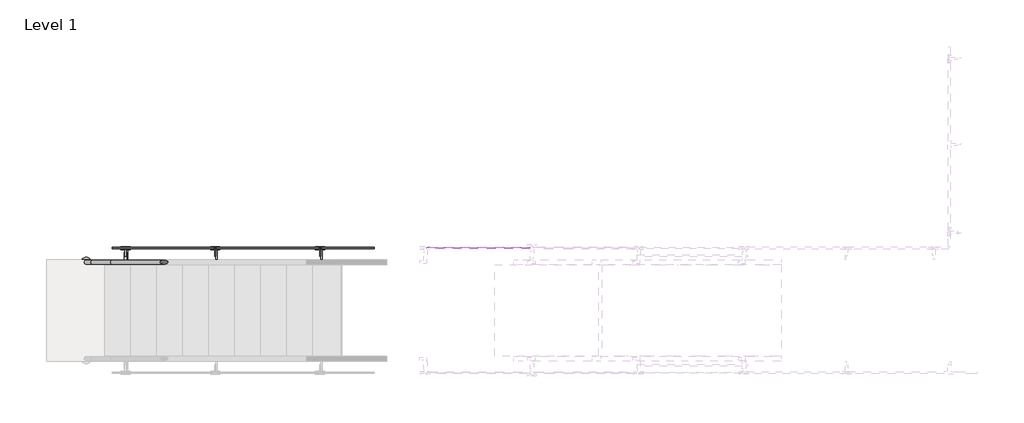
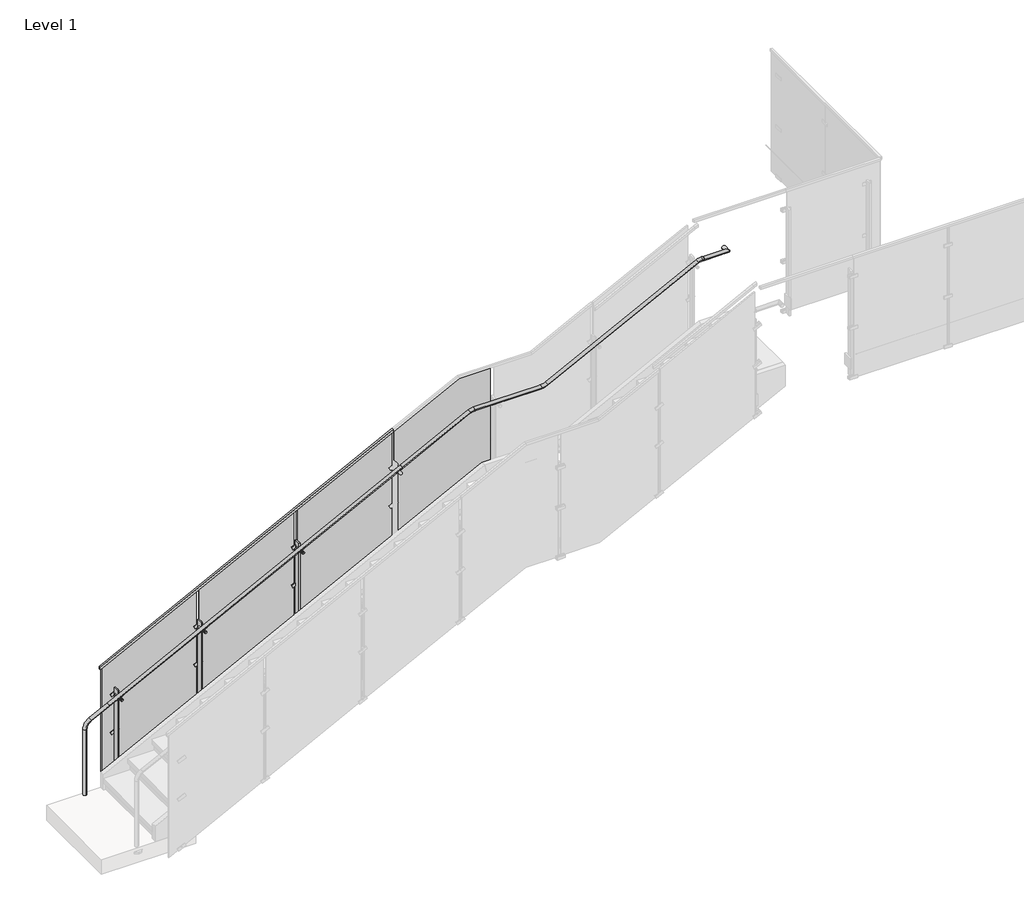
# One storey, part 34 of 37: 2 railings.
"""IFC4 building model written with IfcOpenShell, lengths in millimetres."""

import ifcopenshell
import ifcopenshell.guid

model = None  # the IFC model being written
_history = None  # IfcOwnerHistory: only IFC2X3 demands one
_inside = {}  # id of a spatial element -> (the spatial element, [elements in it])
_under = {}  # id of a project, library or spatial element -> (it, [spatial elements below it])
_declared = {}  # id of a project -> (the project, [libraries it declares])
_typed = {}  # id of a type object -> (the type object, [elements of that type])
_made_of = {}  # id of a material, layer set ... -> (it, [elements and type objects made of it])


def new_model(schema):
    """Start an empty IFC model of exactly this schema.

    Asked for "IFC4X3", IfcOpenShell would pick the latest addendum, in which some entities
    have other attributes; the version numbers below select the first issue.
    IFC2X3 requires an IfcOwnerHistory on every rooted entity: one is made here for all.
    """
    global model, _history
    if schema == "IFC4X3":
        model = ifcopenshell.file(schema_version=(4, 3, 0, 0))
    else:
        model = ifcopenshell.file(schema=schema)
    _inside.clear()
    _under.clear()
    _declared.clear()
    _typed.clear()
    _made_of.clear()
    _history = None
    if model.schema == "IFC2X3":
        org = make("IfcOrganization", Name="unknown")
        user = make(
            "IfcPersonAndOrganization",
            ThePerson=make("IfcPerson", FamilyName="unknown"),
            TheOrganization=org,
        )
        app = make(
            "IfcApplication",
            ApplicationDeveloper=org,
            Version="unknown",
            ApplicationFullName="unknown",
            ApplicationIdentifier="unknown",
        )
        _history = make(
            "IfcOwnerHistory",
            OwningUser=user,
            OwningApplication=app,
            ChangeAction="ADDED",
            CreationDate=0,
        )
    return model


def make(cls, **values):
    """One entity of the class cls with the attributes given. An attribute that is None is left unset."""
    return model.create_entity(
        cls, **{name: value for name, value in values.items() if value is not None}
    )


def rooted(cls, **values):
    """An entity with a GlobalId (a new one), such as an element, a storey or a relation."""
    return make(cls, GlobalId=ifcopenshell.guid.new(), OwnerHistory=_history, **values)


def si_unit(unit_type, name, prefix=None):
    """IfcSIUnit, for example si_unit("LENGTHUNIT", "METRE", prefix="MILLI")."""
    return make("IfcSIUnit", UnitType=unit_type, Prefix=prefix, Name=name)


def assignment(units):
    """IfcUnitAssignment: the units of a project."""
    return None if units is None else make("IfcUnitAssignment", Units=units)


def point(xyz):
    """IfcCartesianPoint."""
    return None if xyz is None else make("IfcCartesianPoint", Coordinates=xyz)


def direction(xyz):
    """IfcDirection."""
    return None if xyz is None else make("IfcDirection", DirectionRatios=xyz)


def frame(location, z_axis=None, x_axis=None):
    """IfcAxis2Placement3D, a coordinate frame: its origin and axes. An axis left out is left unset."""
    return make(
        "IfcAxis2Placement3D",
        Location=point(location),
        Axis=direction(z_axis),
        RefDirection=direction(x_axis),
    )


def frame_2d(location, x_axis=None):
    """IfcAxis2Placement2D, a coordinate frame in the plane: its origin and x axis."""
    return make(
        "IfcAxis2Placement2D", Location=point(location), RefDirection=direction(x_axis)
    )


def origin():
    """The frame at (0, 0, 0) with its axes left unset."""
    return frame((0.0, 0.0, 0.0))


def place(relative_to, where):
    """IfcLocalPlacement: puts the frame where relative to a parent placement (None: the world)."""
    return make(
        "IfcLocalPlacement", PlacementRelTo=relative_to, RelativePlacement=where
    )


def context(
    kind, dimensions, precision=None, world=None, true_north=None, identifier=None
):
    """IfcGeometricRepresentationContext, for example the 3D "Model" context."""
    return make(
        "IfcGeometricRepresentationContext",
        ContextIdentifier=identifier,
        ContextType=kind,
        CoordinateSpaceDimension=dimensions,
        Precision=precision,
        WorldCoordinateSystem=world,
        TrueNorth=true_north,
    )


def project(units=None, contexts=None):
    """IfcProject with its units and contexts."""
    return rooted(
        "IfcProject",
        Name="project",
        RepresentationContexts=contexts,
        UnitsInContext=assignment(units),
    )


def spatial(cls, under=None, at=None, **own):
    """A site, building, storey or space (cls), placed at a placement, below another one or the project."""
    s = rooted(cls, ObjectPlacement=at, **own)
    if under is not None:
        _under.setdefault(under.id(), (under, []))[1].append(s)
    return s


def polyline(points):
    """IfcPolyline through the points."""
    return make("IfcPolyline", Points=[point(p) for p in points])


def circle_curve(where, radius):
    """IfcCircle in the frame where."""
    return make("IfcCircle", Position=where, Radius=radius)


def ellipse_curve(where, semi_axis1, semi_axis2):
    """IfcEllipse in the frame where."""
    return make(
        "IfcEllipse", Position=where, SemiAxis1=semi_axis1, SemiAxis2=semi_axis2
    )


def trimmed(basis, trim1, trim2, sense, master):
    """IfcTrimmedCurve: the piece of a basis curve between two trims."""
    return make(
        "IfcTrimmedCurve",
        BasisCurve=basis,
        Trim1=trim1,
        Trim2=trim2,
        SenseAgreement=sense,
        MasterRepresentation=master,
    )


def segment(curve, same_sense, transition):
    """IfcCompositeCurveSegment."""
    return make(
        "IfcCompositeCurveSegment",
        Transition=transition,
        SameSense=same_sense,
        ParentCurve=curve,
    )


def composite_curve(segments, self_intersect=None):
    """IfcCompositeCurve: segments joined end to end."""
    return make("IfcCompositeCurve", Segments=segments, SelfIntersect=self_intersect)


def outline(outer, holes=None, kind="AREA"):
    """IfcArbitraryClosedProfileDef: a profile drawn as a closed curve; with holes, ...WithVoids."""
    if holes is None:
        return make("IfcArbitraryClosedProfileDef", ProfileType=kind, OuterCurve=outer)
    return make(
        "IfcArbitraryProfileDefWithVoids",
        ProfileType=kind,
        OuterCurve=outer,
        InnerCurves=holes,
    )


def extrude(swept, where, along, depth):
    """IfcExtrudedAreaSolid: the profile swept, set in the frame where, extruded along a direction by depth."""
    return make(
        "IfcExtrudedAreaSolid",
        SweptArea=swept,
        Position=where,
        ExtrudedDirection=direction(along),
        Depth=depth,
    )


def faces_of(points, faces, orient=None, outer=None):
    """IfcFace entities. A face is a list of loops; a loop is a list of indices into points, from 0.

    orient and outer hold one flag for each loop. By default every Orientation is true, the
    first loop of a face is its IfcFaceOuterBound and the others are IfcFaceBound.
    """
    made = []
    for i, loops in enumerate(faces):
        bounds = []
        for j, loop in enumerate(loops):
            is_outer = j == 0 if outer is None else outer[i][j]
            bounds.append(
                make(
                    "IfcFaceOuterBound" if is_outer else "IfcFaceBound",
                    Bound=make("IfcPolyLoop", Polygon=[points[k] for k in loop]),
                    Orientation=True if orient is None else orient[i][j],
                )
            )
        made.append(make("IfcFace", Bounds=bounds))
    return made


def faceted_brep(points, faces, orient=None, outer=None, voids=None):
    """IfcFacetedBrep: a solid bounded by flat faces; with voids (closed shells), ...WithVoids."""
    shared = [point(p) for p in points]
    hull = make("IfcClosedShell", CfsFaces=faces_of(shared, faces, orient, outer))
    if voids is None:
        return make("IfcFacetedBrep", Outer=hull)
    return make(
        "IfcFacetedBrepWithVoids",
        Outer=hull,
        Voids=[
            make(cls, CfsFaces=faces_of(shared, fs, o, b)) for cls, fs, o, b in voids
        ],
    )


def shape(context_of_items, identifier, shape_type, items):
    """IfcShapeRepresentation: the items that make up one representation, for example the "Body"."""
    return make(
        "IfcShapeRepresentation",
        ContextOfItems=context_of_items,
        RepresentationIdentifier=identifier,
        RepresentationType=shape_type,
        Items=items,
    )


def source(mapping_origin, context_of_items, identifier, shape_type, items):
    """IfcRepresentationMap: a shape defined once, which mapped items show again and again."""
    return make(
        "IfcRepresentationMap",
        MappingOrigin=mapping_origin,
        MappedRepresentation=shape(context_of_items, identifier, shape_type, items),
    )


def transform(
    local_origin,
    x_axis=None,
    y_axis=None,
    z_axis=None,
    scale=None,
    scale2=None,
    scale3=None,
    uniform=True,
):
    """IfcCartesianTransformationOperator3D, or its non-uniform kind. x_axis, y_axis, z_axis: its Axis1, 2, 3."""
    if uniform:
        return make(
            "IfcCartesianTransformationOperator3D",
            Axis1=direction(x_axis),
            Axis2=direction(y_axis),
            LocalOrigin=point(local_origin),
            Scale=scale,
            Axis3=direction(z_axis),
        )
    return make(
        "IfcCartesianTransformationOperator3DnonUniform",
        Axis1=direction(x_axis),
        Axis2=direction(y_axis),
        LocalOrigin=point(local_origin),
        Scale=scale,
        Axis3=direction(z_axis),
        Scale2=scale2,
        Scale3=scale3,
    )


def mapped(mapping_source, mapping_target):
    """IfcMappedItem: shows the shape of a source again, moved by a transform."""
    return make(
        "IfcMappedItem", MappingSource=mapping_source, MappingTarget=mapping_target
    )


def made_of(thing, what):
    """Note that an element or type object is made of a material, layer set ...; save() writes the relation."""
    if what is not None:
        _made_of.setdefault(what.id(), (what, []))[1].append(thing)
    return thing


def element(
    cls,
    number,
    at=None,
    inside=None,
    cuts=None,
    type_object=None,
    material=None,
    context=None,
    identifier="Body",
    shape_type=None,
    held_by="IfcProductDefinitionShape",
    body=None,
    shapes=None,
    **own,
):
    """One element of the class cls, such as IfcWall. Its Tag is "e" and its number.

    at: its placement. inside: the storey or other place that contains it. cuts: it is an
    opening in that element (IfcRelVoidsElement). A single representation is given by context,
    identifier, shape_type and body (its items); several are given by shapes. held_by: the class
    of the entity that holds the representations. save() writes the other relations.
    """
    e = rooted(cls, Tag="e%d" % number, ObjectPlacement=at, **own)
    if body is not None:
        shapes = [shape(context, identifier, shape_type, body)]
    if shapes is not None:
        e.Representation = make(held_by, Representations=shapes)
    if inside is not None:
        _inside.setdefault(inside.id(), (inside, []))[1].append(e)
    if cuts is not None:
        rooted(
            "IfcRelVoidsElement", RelatingBuildingElement=cuts, RelatedOpeningElement=e
        )
    if type_object is not None:
        _typed.setdefault(type_object.id(), (type_object, []))[1].append(e)
    return made_of(e, material)


def aggregate(whole, parts):
    """IfcRelAggregates: a whole, such as a stair, and the parts it consists of."""
    return rooted("IfcRelAggregates", RelatingObject=whole, RelatedObjects=parts)


def save(model, path):
    """Write the relations noted so far, then the file.

    IfcRelAggregates (storeys below a building ...), IfcRelContainedInSpatialStructure (elements
    in a storey), IfcRelDefinesByType, IfcRelAssociatesMaterial and IfcRelDeclares: one each for
    every whole, place, type object, material and project.
    """
    for whole, parts in _under.values():
        aggregate(whole, parts)
    for where, things in _inside.values():
        rooted(
            "IfcRelContainedInSpatialStructure",
            RelatedElements=things,
            RelatingStructure=where,
        )
    for kind, things in _typed.values():
        rooted("IfcRelDefinesByType", RelatedObjects=things, RelatingType=kind)
    for what, things in _made_of.values():
        rooted("IfcRelAssociatesMaterial", RelatedObjects=things, RelatingMaterial=what)
    for by, libraries in _declared.values():
        rooted("IfcRelDeclares", RelatingContext=by, RelatedDefinitions=libraries)
    model.write(path)


def plane_surface(at):
    """IfcPlane: the flat surface through the origin of the frame at, square to its z axis."""
    return make("IfcPlane", Position=at)


def cylinder_surface(at, radius):
    """IfcCylindricalSurface: all points at the distance radius from the z axis of the frame at."""
    return make("IfcCylindricalSurface", Position=at, Radius=radius)


def revolved_surface(curve, axis_point, axis_direction):
    """IfcSurfaceOfRevolution: the curve turned about the line through axis_point along axis_direction."""
    return make(
        "IfcSurfaceOfRevolution",
        SweptCurve=make("IfcArbitraryOpenProfileDef", ProfileType="CURVE", Curve=curve),
        AxisPosition=make("IfcAxis1Placement", Location=point(axis_point), Axis=direction(axis_direction)),
    )


def advanced_brep(points, edges, surfaces, faces):
    """IfcAdvancedBrep: a solid bounded by faces that lie on surfaces and meet in shared edges.

    An edge is (start, end): straight between two places in points (the first is 0);
    or (start, end, curve); or (start, end, curve, False) where it runs against its curve.
    A face is (place in surfaces, loops), or (place, loops, False) where it looks against
    its surface's normal. A loop lists edges by number (the first is 1), with a minus sign
    where the edge is run from its end to its start. The first loop is the outer one.
    """
    corners = [point(p) for p in points]
    vertices = [make("IfcVertexPoint", VertexGeometry=c) for c in corners]
    made = []
    for start, end, *more in edges:
        made.append(
            make(
                "IfcEdgeCurve",
                EdgeStart=vertices[start],
                EdgeEnd=vertices[end],
                EdgeGeometry=more[0] if more else make("IfcPolyline", Points=[corners[start], corners[end]]),
                SameSense=more[1] if len(more) > 1 else True,
            )
        )
    hull = []
    for where, loops, *sense in faces:
        bounds = []
        for j, loop in enumerate(loops):
            ring = [make("IfcOrientedEdge", EdgeElement=made[abs(k) - 1], Orientation=k > 0) for k in loop]
            bounds.append(
                make(
                    "IfcFaceOuterBound" if j == 0 else "IfcFaceBound",
                    Bound=make("IfcEdgeLoop", EdgeList=ring),
                    Orientation=True,
                )
            )
        hull.append(make("IfcAdvancedFace", Bounds=bounds, FaceSurface=surfaces[where], SameSense=sense[0] if sense else True))
    return make("IfcAdvancedBrep", Outer=make("IfcClosedShell", CfsFaces=hull))


def baluster_landing_panel_viva_solo_lower_standard_glass_5c29c0c0(model_context):
    return source(origin(), model_context, "Body", "SweptSolid", [
        extrude(outline(polyline([(680.085, 1112.52), (1025.525, 1112.52), (1025.525, -297.8203202), (685.3191767, -297.8203202), (-5.0108793, -649.2575757), (-5.0108793, 763.7473897), (680.085, 1112.52)])), frame((33.3375, 0.0, 0.0), z_axis=(1.0, 0.0, 0.0), x_axis=(0.0, 1.0, 0.0)), (0.0, 0.0, 1.0), 9.525),
    ])


model = new_model("IFC4")

# Units and contexts
model_context = context("Model", 3, world=origin())
ifc_project = project(units=[si_unit("LENGTHUNIT", "METRE", prefix="MILLI")], contexts=[model_context])

# Site, building, storey
site = spatial("IfcSite", under=ifc_project)
building = spatial("IfcBuilding", under=site)
storey = spatial("IfcBuildingStorey", under=building, Name="Level 1", Elevation=0.0)

# Railings
placement = place(None, origin())
element("IfcRailing", 1, ObjectType="VIVA-SOLO-Glass-Fascia Mount-Stair-A1_Left_Lower", at=placement, inside=storey, context=model_context, shape_type="SolidModel", body=[
    advanced_brep(
    [(7831.7713929, 33599.5731645, 3765.2852907), (7831.7713929, 33637.6731645, 3765.2852907), (8104.8213929, 33599.5731645, 3765.2852907), (8066.7213929, 33637.6731645, 3765.2852907), (8104.8213929, 33682.1231645, 3765.2852907), (8066.7213929, 33682.1231645, 3765.2852907)],
    [
        (0, 1, circle_curve(frame((7831.7713929, 33618.6231645, 3765.2852907), z_axis=(-1.0, 0.0, 0.0), x_axis=(0.0, 1.0, 0.0)), 19.05)),
        (1, 0, circle_curve(frame((7831.7713929, 33618.6231645, 3765.2852907), z_axis=(-1.0, 0.0, 0.0), x_axis=(0.0, 1.0, 0.0)), 19.05)),
        (0, 2),
        (2, 3, ellipse_curve(frame((8085.7713929, 33618.6231645, 3765.2852907), z_axis=(-0.7071067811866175, -0.7071067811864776, 0.0), x_axis=(-0.7071067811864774, 0.7071067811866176, 0.0)), 26.9407684, 19.05)),
        (3, 1),
        (3, 2, ellipse_curve(frame((8085.7713929, 33618.6231645, 3765.2852907), z_axis=(-0.7071067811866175, -0.7071067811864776, 0.0), x_axis=(-0.7071067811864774, 0.7071067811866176, 0.0)), 26.9407684, 19.05)),
        (4, 5, circle_curve(frame((8085.7713929, 33682.1231645, 3765.2852907), z_axis=(0.0, 1.0, 0.0), x_axis=(-1.0, 0.0, 0.0)), 19.05)),
        (5, 4, circle_curve(frame((8085.7713929, 33682.1231645, 3765.2852907), z_axis=(0.0, 1.0, 0.0), x_axis=(-1.0, 0.0, 0.0)), 19.05)),
        (2, 4),
        (5, 3),
    ],
    [
        plane_surface(frame((7831.7713929, 33618.6231645, 3765.2852907), z_axis=(-1.0, 0.0, 0.0), x_axis=(0.0, 0.0, 1.0))),
        cylinder_surface(frame((7831.7713929, 33618.6231645, 3765.2852907), z_axis=(-1.0, 0.0, 0.0), x_axis=(0.0, 1.0, 0.0)), 19.05),
        plane_surface(frame((8085.7713929, 33682.1231645, 3765.2852907), z_axis=(0.0, 1.0, 0.0), x_axis=(0.0, 0.0, 1.0))),
        cylinder_surface(frame((8085.7713929, 33618.6231645, 3765.2852907), z_axis=(0.0, -1.0, 0.0), x_axis=(-1.0, 0.0, 0.0)), 19.05),
    ],
    [
        (0, [[1, 2]]),
        (1, [[-1, 3, 4, 5]]),
        (1, [[-2, -5, 6, -3]]),
        (2, [[7, 8]]),
        (3, [[-4, 9, -8, 10]]),
        (3, [[-6, -10, -7, -9]]),
    ],
),
    extrude(outline(composite_curve([segment(trimmed(circle_curve(frame_2d((1187.6734986, 33618.6231645)), 50.8), [point((1187.6734986, 33669.4231645))], [point((1187.6734986, 33567.8231645))], False, "CARTESIAN"), True, "CONTINUOUS"), segment(trimmed(circle_curve(frame_2d((1187.6734986, 33618.6231645)), 50.8), [point((1187.6734986, 33567.8231645))], [point((1187.6734986, 33669.4231645))], False, "CARTESIAN"), True, "CONTINUOUS")], self_intersect=False)), frame((0.0, 0.0, -55.5403542), z_axis=(0.0, 0.0, 1.0), x_axis=(1.0, 0.0, 0.0)), (0.0, 0.0, 1.0), 19.05),
    advanced_brep(
    [(1187.6734986, 33599.5731645, -36.4903542), (1187.6734986, 33637.6731645, -36.4903542), (1187.6734986, 33599.5731645, 742.5735715), (1187.6734986, 33637.6731645, 742.5735715), (1243.1848475, 33637.6731645, 833.1185672), (1243.1848475, 33599.5731645, 833.1185672), (1437.6151207, 33599.5731645, 932.0862566), (1437.6151207, 33637.6731645, 932.0862566), (4587.2151207, 33599.5731645, 2535.2760764), (4587.2151207, 33637.6731645, 2535.2760764), (5315.9107862, 33599.5731645, 2906.1922157), (5315.9107862, 33637.6731645, 2906.1922157), (5361.9994372, 33637.6731645, 2917.24722), (5361.9994372, 33599.5731645, 2917.24722), (6083.6428818, 33599.5731645, 2917.24722), (6083.6428818, 33637.6731645, 2917.24722), (6146.9428171, 33637.6731645, 2932.4112486), (6146.9428171, 33599.5731645, 2932.4112486), (7763.8377921, 33599.5731645, 3754.2569063), (7763.8377921, 33637.6731645, 3754.2569063), (7809.8741087, 33637.6731645, 3765.2852907), (7809.8741087, 33599.5731645, 3765.2852907), (7831.7713929, 33599.5731645, 3765.2852907), (7831.7713929, 33637.6731645, 3765.2852907)],
    [
        (0, 1, circle_curve(frame((1187.6734986, 33618.6231645, -36.4903542), z_axis=(0.0, 0.0, -1.0), x_axis=(0.0, 1.0, 0.0)), 19.05)),
        (1, 0, circle_curve(frame((1187.6734986, 33618.6231645, -36.4903542), z_axis=(0.0, 0.0, -1.0), x_axis=(0.0, 1.0, 0.0)), 19.05)),
        (0, 2),
        (2, 3, circle_curve(frame((1187.6734986, 33618.6231645, 742.5735715), z_axis=(0.0, 0.0, -1.0), x_axis=(0.0, 1.0, 0.0)), 19.05)),
        (3, 1),
        (3, 2, circle_curve(frame((1187.6734986, 33618.6231645, 742.5735715), z_axis=(0.0, 0.0, -1.0), x_axis=(0.0, 1.0, 0.0)), 19.05)),
        (4, 3, circle_curve(frame((1289.2734986, 33637.6731645, 742.5735715), z_axis=(0.0, -1.0, 0.0), x_axis=(-0.9999999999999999, 0.0, 0.0)), 101.6)),
        (2, 5, circle_curve(frame((1289.2734986, 33599.5731645, 742.5735715), z_axis=(0.0, 1.0, 0.0), x_axis=(-0.9999999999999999, 0.0, 0.0)), 101.6)),
        (5, 4, circle_curve(frame((1243.1848475, 33618.6231645, 833.1185672), z_axis=(-0.8911909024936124, 0.0, -0.4536284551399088), x_axis=(0.0, 0.9999999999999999, 0.0)), 19.05)),
        (4, 5, circle_curve(frame((1243.1848475, 33618.6231645, 833.1185672), z_axis=(-0.8911909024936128, 0.0, -0.4536284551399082), x_axis=(0.0, 0.9999999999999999, 0.0)), 19.05)),
        (5, 6),
        (6, 7, circle_curve(frame((1437.6151207, 33618.6231645, 932.0862566), z_axis=(-0.8911909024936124, 0.0, -0.4536284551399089), x_axis=(0.0, 1.0, 0.0)), 19.05)),
        (7, 4),
        (7, 6, circle_curve(frame((1437.6151207, 33618.6231645, 932.0862566), z_axis=(-0.8911909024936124, 0.0, -0.4536284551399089), x_axis=(0.0, 1.0, 0.0)), 19.05)),
        (6, 8),
        (8, 9, circle_curve(frame((4587.2151207, 33618.6231645, 2535.2760764), z_axis=(-0.8911909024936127, 0.0, -0.4536284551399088), x_axis=(0.0, 1.0, 0.0)), 19.05)),
        (9, 7),
        (9, 8, circle_curve(frame((4587.2151207, 33618.6231645, 2535.2760764), z_axis=(-0.8911909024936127, 0.0, -0.4536284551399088), x_axis=(0.0, 1.0, 0.0)), 19.05)),
        (8, 10),
        (10, 11, circle_curve(frame((5315.9107862, 33618.6231645, 2906.1922157), z_axis=(-0.8911909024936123, 0.0, -0.45362845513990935), x_axis=(0.0, 1.0, 0.0)), 19.05)),
        (11, 9),
        (11, 10, circle_curve(frame((5315.9107862, 33618.6231645, 2906.1922157), z_axis=(-0.8911909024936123, 0.0, -0.45362845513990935), x_axis=(0.0, 1.0, 0.0)), 19.05)),
        (12, 11, circle_curve(frame((5361.9994372, 33637.6731645, 2815.64722), z_axis=(0.0, -1.0, 0.0), x_axis=(-0.45362845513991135, 0.0, 0.8911909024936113)), 101.6)),
        (10, 13, circle_curve(frame((5361.9994372, 33599.5731645, 2815.64722), z_axis=(0.0, 1.0, 0.0), x_axis=(-0.45362845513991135, 0.0, 0.8911909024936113)), 101.6)),
        (13, 12, circle_curve(frame((5361.9994372, 33618.6231645, 2917.24722), z_axis=(-0.9999999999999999, 0.0, 0.0), x_axis=(0.0, 1.0, 0.0)), 19.05)),
        (12, 13, circle_curve(frame((5361.9994372, 33618.6231645, 2917.24722), z_axis=(-0.9999999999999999, 0.0, 0.0), x_axis=(0.0, 1.0, 0.0)), 19.05)),
        (13, 14),
        (14, 15, circle_curve(frame((6083.6428818, 33618.6231645, 2917.24722), z_axis=(-1.0, 0.0, 0.0), x_axis=(0.0, 1.0, 0.0)), 19.05)),
        (15, 12),
        (15, 14, circle_curve(frame((6083.6428818, 33618.6231645, 2917.24722), z_axis=(-1.0, 0.0, 0.0), x_axis=(0.0, 1.0, 0.0)), 19.05)),
        (16, 15, circle_curve(frame((6083.6428818, 33637.6731645, 3056.94722), z_axis=(0.0, 1.0, 0.0), x_axis=(0.0, 0.0, -1.0)), 139.7)),
        (14, 17, circle_curve(frame((6083.6428818, 33599.5731645, 3056.94722), z_axis=(0.0, -1.0, 0.0), x_axis=(0.0, 0.0, -1.0)), 139.7)),
        (17, 16, circle_curve(frame((6146.9428171, 33618.6231645, 2932.4112486), z_axis=(-0.8914529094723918, 0.0, -0.4531133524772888), x_axis=(0.0, 1.0, 0.0)), 19.05)),
        (16, 17, circle_curve(frame((6146.9428171, 33618.6231645, 2932.4112486), z_axis=(-0.8914529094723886, 0.0, -0.45311335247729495), x_axis=(0.0, 1.0, 0.0)), 19.05)),
        (17, 18),
        (18, 19, circle_curve(frame((7763.8377921, 33618.6231645, 3754.2569063), z_axis=(-0.8914529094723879, 0.0, -0.4531133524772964), x_axis=(0.0, 1.0, 0.0)), 19.05)),
        (19, 16),
        (19, 18, circle_curve(frame((7763.8377921, 33618.6231645, 3754.2569063), z_axis=(-0.8914529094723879, 0.0, -0.4531133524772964), x_axis=(0.0, 1.0, 0.0)), 19.05)),
        (20, 19, circle_curve(frame((7809.8741087, 33637.6731645, 3663.6852907), z_axis=(0.0, -1.0, 0.0), x_axis=(-0.45311335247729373, 0.0, 0.8914529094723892)), 101.6)),
        (18, 21, circle_curve(frame((7809.8741087, 33599.5731645, 3663.6852907), z_axis=(0.0, 1.0, 0.0), x_axis=(-0.45311335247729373, 0.0, 0.8914529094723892)), 101.6)),
        (21, 20, circle_curve(frame((7809.8741087, 33618.6231645, 3765.2852907), z_axis=(-0.9999999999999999, 0.0, 0.0), x_axis=(0.0, 1.0, 0.0)), 19.05)),
        (20, 21, circle_curve(frame((7809.8741087, 33618.6231645, 3765.2852907), z_axis=(-1.0, 0.0, 0.0), x_axis=(0.0, 1.0, 0.0)), 19.05)),
        (22, 23, circle_curve(frame((7831.7713929, 33618.6231645, 3765.2852907), z_axis=(1.0, 0.0, 0.0), x_axis=(0.0, 1.0, 0.0)), 19.05)),
        (23, 22, circle_curve(frame((7831.7713929, 33618.6231645, 3765.2852907), z_axis=(1.0, 0.0, 0.0), x_axis=(0.0, 1.0, 0.0)), 19.05)),
        (21, 22),
        (23, 20),
    ],
    [
        plane_surface(frame((1168.6234986, 33580.5231645, -36.4903542), z_axis=(0.0, 0.0, -1.0), x_axis=(1.0, 0.0, 0.0))),
        cylinder_surface(frame((1187.6734986, 33618.6231645, -36.4903542), z_axis=(0.0, 0.0, -1.0), x_axis=(0.0, 1.0, 0.0)), 19.05),
        revolved_surface(trimmed(ellipse_curve(frame((1187.6734986, 33618.6231645, 742.5735715), z_axis=(0.0, 0.0, -0.9999999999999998), x_axis=(0.0, 0.9999999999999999, 0.0)), 19.05, 19.05), [point((1187.6734986, 33599.5731645, 742.5735715))], [point((1187.6734986, 33637.6731645, 742.5735715))], True, "CARTESIAN"), (1289.2734986, 33618.6231645, 742.5735715), (0.0, 0.9999999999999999, 0.0)),
        revolved_surface(trimmed(ellipse_curve(frame((1187.6734986, 33618.6231645, 742.5735715), z_axis=(0.0, 0.0, -0.9999999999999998), x_axis=(0.0, 0.9999999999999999, 0.0)), 19.05, 19.05), [point((1187.6734986, 33637.6731645, 742.5735715))], [point((1187.6734986, 33599.5731645, 742.5735715))], True, "CARTESIAN"), (1289.2734986, 33618.6231645, 742.5735715), (0.0, 0.9999999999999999, 0.0)),
        cylinder_surface(frame((1243.1848475, 33618.6231645, 833.1185672), z_axis=(-0.8911909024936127, 0.0, -0.453628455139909), x_axis=(0.0, 1.0, 0.0)), 19.05),
        cylinder_surface(frame((1437.6151207, 33618.6231645, 932.0862566), z_axis=(-0.8911909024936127, 0.0, -0.4536284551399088), x_axis=(0.0, 1.0, 0.0)), 19.05),
        cylinder_surface(frame((4587.2151207, 33618.6231645, 2535.2760764), z_axis=(-0.8911909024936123, 0.0, -0.45362845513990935), x_axis=(0.0, 1.0, 0.0)), 19.05),
        revolved_surface(trimmed(ellipse_curve(frame((5315.9107862, 33618.6231645, 2906.1922157), z_axis=(-0.8911909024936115, 0.0, -0.453628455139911), x_axis=(0.0, 1.0, 0.0)), 19.05, 19.05), [point((5315.9107862, 33599.5731645, 2906.1922157))], [point((5315.9107862, 33637.6731645, 2906.1922157))], True, "CARTESIAN"), (5361.9994372, 33618.6231645, 2815.64722), (0.0, 1.0, 0.0)),
        revolved_surface(trimmed(ellipse_curve(frame((5315.9107862, 33618.6231645, 2906.1922157), z_axis=(-0.8911909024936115, 0.0, -0.453628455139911), x_axis=(0.0, 1.0, 0.0)), 19.05, 19.05), [point((5315.9107862, 33637.6731645, 2906.1922157))], [point((5315.9107862, 33599.5731645, 2906.1922157))], True, "CARTESIAN"), (5361.9994372, 33618.6231645, 2815.64722), (0.0, 1.0, 0.0)),
        cylinder_surface(frame((5361.9994372, 33618.6231645, 2917.24722), z_axis=(-1.0, 0.0, 0.0), x_axis=(0.0, 1.0, 0.0)), 19.05),
        revolved_surface(trimmed(ellipse_curve(frame((6083.6428818, 33618.6231645, 2917.24722), z_axis=(-1.0, 0.0, 0.0), x_axis=(0.0, 1.0, 0.0)), 19.05, 19.05), [point((6083.6428818, 33599.5731645, 2917.24722))], [point((6083.6428818, 33637.6731645, 2917.24722))], True, "CARTESIAN"), (6083.6428818, 33618.6231645, 3056.94722), (0.0, -1.0, 0.0)),
        revolved_surface(trimmed(ellipse_curve(frame((6083.6428818, 33618.6231645, 2917.24722), z_axis=(-1.0, 0.0, 0.0), x_axis=(0.0, 1.0, 0.0)), 19.05, 19.05), [point((6083.6428818, 33637.6731645, 2917.24722))], [point((6083.6428818, 33599.5731645, 2917.24722))], True, "CARTESIAN"), (6083.6428818, 33618.6231645, 3056.94722), (0.0, -1.0, 0.0)),
        cylinder_surface(frame((6146.9428171, 33618.6231645, 2932.4112486), z_axis=(-0.8914529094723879, 0.0, -0.4531133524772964), x_axis=(0.0, 1.0, 0.0)), 19.05),
        revolved_surface(trimmed(ellipse_curve(frame((7763.8377921, 33618.6231645, 3754.2569063), z_axis=(-0.8914529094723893, 0.0, -0.4531133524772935), x_axis=(0.0, 1.0, 0.0)), 19.05, 19.05), [point((7763.8377921, 33599.5731645, 3754.2569063))], [point((7763.8377921, 33637.6731645, 3754.2569063))], True, "CARTESIAN"), (7809.8741087, 33618.6231645, 3663.6852907), (0.0, 1.0, 0.0)),
        revolved_surface(trimmed(ellipse_curve(frame((7763.8377921, 33618.6231645, 3754.2569063), z_axis=(-0.8914529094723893, 0.0, -0.4531133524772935), x_axis=(0.0, 1.0, 0.0)), 19.05, 19.05), [point((7763.8377921, 33637.6731645, 3754.2569063))], [point((7763.8377921, 33599.5731645, 3754.2569063))], True, "CARTESIAN"), (7809.8741087, 33618.6231645, 3663.6852907), (0.0, 1.0, 0.0)),
        plane_surface(frame((7831.7713929, 33618.6231645, 3784.3352907), z_axis=(1.0, 0.0, 0.0), x_axis=(0.0, 1.0, 0.0))),
        cylinder_surface(frame((7809.8741087, 33618.6231645, 3765.2852907), z_axis=(-1.0, 0.0, 0.0), x_axis=(0.0, 1.0, 0.0)), 19.05),
    ],
    [
        (0, [[1, 2]]),
        (1, [[-1, 3, 4, 5]]),
        (1, [[-2, -5, 6, -3]]),
        (2, [[7, -4, 8, 9]]),
        (3, [[-8, -6, -7, 10]]),
        (4, [[-9, 11, 12, 13]]),
        (4, [[-10, -13, 14, -11]]),
        (5, [[-12, 15, 16, 17]]),
        (5, [[-14, -17, 18, -15]]),
        (6, [[-16, 19, 20, 21]]),
        (6, [[-18, -21, 22, -19]]),
        (7, [[23, -20, 24, 25]]),
        (8, [[-24, -22, -23, 26]]),
        (9, [[-25, 27, 28, 29]]),
        (9, [[-26, -29, 30, -27]]),
        (10, [[31, -28, 32, 33]]),
        (11, [[-32, -30, -31, 34]]),
        (12, [[-33, 35, 36, 37]]),
        (12, [[-34, -37, 38, -35]]),
        (13, [[39, -36, 40, 41]]),
        (14, [[-40, -38, -39, 42]]),
        (15, [[43, 44]]),
        (16, [[-41, 45, -44, 46]]),
        (16, [[-42, -46, -43, -45]]),
    ],
),
    faceted_brep([(1428.9734986, 33749.1156645, 1279.2634433), (1428.9734986, 33771.3406645, 1279.2634433), (1428.9734986, 33771.3406645, 1250.7622547), (1428.9734986, 33766.5781645, 1250.7622547), (1428.9734986, 33766.5781645, 1273.9194705), (1428.9734986, 33753.8781645, 1273.9194705), (1428.9734986, 33753.8781645, 1250.7622547), (1428.9734986, 33749.1156645, 1250.7622547), (4578.5734986, 33749.1156645, 2882.453263), (4578.5734986, 33749.1156645, 2853.9520744), (4578.5734986, 33753.8781645, 2853.9520744), (4578.5734986, 33753.8781645, 2877.1092902), (4578.5734986, 33766.5781645, 2877.1092902), (4578.5734986, 33766.5781645, 2853.9520744), (4578.5734986, 33771.3406645, 2853.9520744), (4578.5734986, 33771.3406645, 2882.453263)], [[[0, 1, 2, 3, 4, 5, 6, 7]], [[8, 9, 10, 11, 12, 13, 14, 15]], [[1, 0, 8, 15]], [[2, 1, 15, 14]], [[3, 2, 14, 13]], [[4, 3, 13, 12]], [[5, 4, 12, 11]], [[6, 5, 11, 10]], [[7, 6, 10, 9]], [[0, 7, 9, 8]]]),
    extrude(outline(polyline([(2868.4999629, 4562.0232119), (2351.3419566, 3546.0232119), (934.2759566, 3546.0232119), (1451.4339629, 4562.0232119), (2868.4999629, 4562.0232119)])), frame((0.0, 33753.5606645, 0.0), z_axis=(0.0, 1.0, 0.0), x_axis=(0.0, 0.0, 1.0)), (0.0, 0.0, 1.0), 12.7),
    extrude(outline(composite_curve([segment(trimmed(circle_curve(frame_2d((0.0, 7.0)), 7.0), [point((0.0, 14.0))], [point((0.0, 0.0))], False, "CARTESIAN"), True, "CONTINUOUS"), segment(trimmed(circle_curve(frame_2d((0.0, 7.0)), 7.0), [point((0.0, 0.0))], [point((0.0, 14.0))], False, "CARTESIAN"), True, "CONTINUOUS")], self_intersect=False)), frame((3535.2933249, 33628.0507274, 1918.9620926), z_axis=(-0.4457291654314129, 0.0, 0.8951678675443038), x_axis=(-0.8951678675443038, 0.0, -0.4457291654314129)), (0.0, 0.0, 1.0), 50.5982576),
    extrude(outline(composite_curve([segment(trimmed(circle_curve(frame_2d((1931.7644508, 3528.8256666)), 12.5), [point((1931.7644508, 3541.3256666))], [point((1931.7644508, 3516.3256666))], False, "CARTESIAN"), True, "CONTINUOUS"), segment(trimmed(circle_curve(frame_2d((1931.7644508, 3528.8256666)), 12.5), [point((1931.7644508, 3516.3256666))], [point((1931.7644508, 3541.3256666))], False, "CARTESIAN"), True, "CONTINUOUS")], self_intersect=False)), frame((0.0, 33607.2030883, 0.0), z_axis=(0.0, 1.0, 0.0), x_axis=(0.0, 0.0, 1.0)), (0.0, 0.0, 1.0), 112.87),
    extrude(outline(composite_curve([segment(polyline([(5.2466064, -13.9247916), (4.2292193, -14.9511812)]), True, "CONTINUOUS"), segment(trimmed(circle_curve(frame_2d((3.1638975, -13.8952034)), 1.5), [point((4.2292193, -14.9511812))], [point((2.0329757, -14.8806048))], False, "CARTESIAN"), True, "CONTINUOUS"), segment(trimmed(circle_curve(frame_2d((18.6575252, -0.3952034)), 22.05), [point((2.0329757, -14.8806048))], [point((2.0329757, 14.0901981))], False, "CARTESIAN"), True, "CONTINUOUS"), segment(trimmed(circle_curve(frame_2d((3.1638975, 13.1047966)), 1.5), [point((2.0329757, 14.0901981))], [point((4.2292193, 14.1607745))], False, "CARTESIAN"), True, "CONTINUOUS"), segment(polyline([(4.2292193, 14.1607745), (5.2466064, 13.1343849)]), True, "CONTINUOUS"), segment(trimmed(circle_curve(frame_2d((18.6575252, -0.3952034)), 19.05), [point((5.2466064, 13.1343849))], [point((5.2466064, -13.9247916))], True, "CARTESIAN"), True, "CONTINUOUS")], self_intersect=False)), frame((3476.6157764, 33619.323495, 1950.0475284), z_axis=(0.8952329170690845, 0.0, 0.44559850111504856), x_axis=(-0.44559850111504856, 0.0, 0.8952329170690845)), (0.0, 0.0, 1.0), 74.5229187),
    extrude(outline(polyline([(3548.5505819, 33744.2261645), (3548.5505819, 33644.2136645), (3535.0568319, 33644.2136645), (3535.0568319, 33744.2261645), (3548.5505819, 33744.2261645)])), frame((0.0, 0.0, 1014.5566565), z_axis=(0.0, 0.0, 1.0), x_axis=(1.0, 0.0, 0.0)), (0.0, 0.0, 1.0), 127.0),
    extrude(outline(polyline([(3535.0568319, 33744.2261645), (3535.0568319, 33680.7261645), (3522.3568319, 33680.7261645), (3522.3568319, 33744.2261645), (3535.0568319, 33744.2261645)])), frame((0.0, 0.0, 919.6330611), z_axis=(0.0, 0.0, 1.0), x_axis=(1.0, 0.0, 0.0)), (0.0, 0.0, 1.0), 1077.9740667),
    extrude(outline(polyline([(0.0, -88.9), (0.0, 0.0), (9.525, 0.0), (9.525, -88.9), (0.0, -88.9)])), frame((3575.6084081, 33753.7511645, 937.8489381), z_axis=(-0.4383711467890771, 0.0, 0.8987940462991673), x_axis=(0.0, -1.0, 0.0)), (0.0, 0.0, 1.0), 31.75),
    extrude(outline(polyline([(0.0, -88.9), (0.0, 0.0), (9.525, 0.0), (9.525, -88.9), (0.0, -88.9)])), frame((3575.6084081, 33775.9761645, 937.8489381), z_axis=(-0.43837114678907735, 0.0, 0.8987940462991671), x_axis=(0.0, -1.0, 0.0)), (0.0, 0.0, 1.0), 31.75),
    extrude(outline(polyline([(0.0, -88.9), (0.0, 0.0), (9.525, 0.0), (9.525, -88.9), (0.0, -88.9)])), frame((3575.6084081, 33753.7511645, 1505.0431599), z_axis=(-0.4383711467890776, 0.0, 0.8987940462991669), x_axis=(0.0, -1.0, 0.0)), (0.0, 0.0, 1.0), 31.75),
    extrude(outline(polyline([(0.0, -88.9), (0.0, 0.0), (9.525, 0.0), (9.525, -88.9), (0.0, -88.9)])), frame((3575.6084081, 33775.9761645, 1936.3061725), z_axis=(-0.4383711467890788, 0.0, 0.8987940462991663), x_axis=(0.0, -1.0, 0.0)), (0.0, 0.0, 1.0), 31.75),
    extrude(outline(polyline([(0.0, -88.9), (0.0, 0.0), (9.525, 0.0), (9.525, -88.9), (0.0, -88.9)])), frame((3575.6084081, 33753.7511645, 1936.3061725), z_axis=(-0.4383711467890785, 0.0, 0.8987940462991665), x_axis=(0.0, -1.0, 0.0)), (0.0, 0.0, 1.0), 31.75),
    extrude(outline(polyline([(0.0, -88.9), (0.0, 0.0), (9.525, 0.0), (9.525, -88.9), (0.0, -88.9)])), frame((3575.6084081, 33775.9761645, 1505.0431599), z_axis=(-0.438371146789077, 0.0, 0.8987940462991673), x_axis=(0.0, -1.0, 0.0)), (0.0, 0.0, 1.0), 31.75),
    extrude(outline(composite_curve([segment(trimmed(circle_curve(frame_2d((936.3734187, 3528.6978708)), 6.35), [point((936.3734187, 3535.0478708))], [point((936.3734187, 3522.3478708))], False, "CARTESIAN"), True, "CONTINUOUS"), segment(trimmed(circle_curve(frame_2d((936.3734187, 3528.6978708)), 6.35), [point((936.3734187, 3522.3478708))], [point((936.3734187, 3535.0478708))], False, "CARTESIAN"), True, "CONTINUOUS")], self_intersect=False)), frame((0.0, 33766.4511645, 0.0), z_axis=(0.0, 1.0, 0.0), x_axis=(0.0, 0.0, 1.0)), (0.0, 0.0, 1.0), 7.9375),
    extrude(outline(composite_curve([segment(trimmed(circle_curve(frame_2d((1496.9122228, 3528.6978708)), 6.35), [point((1496.9122228, 3535.0478708))], [point((1496.9122228, 3522.3478708))], False, "CARTESIAN"), True, "CONTINUOUS"), segment(trimmed(circle_curve(frame_2d((1496.9122228, 3528.6978708)), 6.35), [point((1496.9122228, 3522.3478708))], [point((1496.9122228, 3535.0478708))], False, "CARTESIAN"), True, "CONTINUOUS")], self_intersect=False)), frame((0.0, 33753.7511645, 0.0), z_axis=(0.0, 1.0, 0.0), x_axis=(0.0, 0.0, 1.0)), (0.0, 0.0, 1.0), 12.7),
    extrude(outline(composite_curve([segment(trimmed(circle_curve(frame_2d((1931.0951657, 3528.6978708)), 6.35), [point((1931.0951657, 3535.0478708))], [point((1931.0951657, 3522.3478708))], False, "CARTESIAN"), True, "CONTINUOUS"), segment(trimmed(circle_curve(frame_2d((1931.0951657, 3528.6978708)), 6.35), [point((1931.0951657, 3522.3478708))], [point((1931.0951657, 3535.0478708))], False, "CARTESIAN"), True, "CONTINUOUS")], self_intersect=False)), frame((0.0, 33753.7511645, 0.0), z_axis=(0.0, 1.0, 0.0), x_axis=(0.0, 0.0, 1.0)), (0.0, 0.0, 1.0), 12.7),
    extrude(outline(polyline([(2334.1033564, 3512.1565452), (1816.94535, 2496.1565452), (399.87935, 2496.1565452), (917.0373564, 3512.1565452), (2334.1033564, 3512.1565452)])), frame((0.0, 33753.5606645, 0.0), z_axis=(0.0, 1.0, 0.0), x_axis=(0.0, 0.0, 1.0)), (0.0, 0.0, 1.0), 12.7),
    extrude(outline(composite_curve([segment(trimmed(circle_curve(frame_2d((0.0, 7.0)), 7.0), [point((0.0, 14.0))], [point((0.0, 0.0))], False, "CARTESIAN"), True, "CONTINUOUS"), segment(trimmed(circle_curve(frame_2d((0.0, 7.0)), 7.0), [point((0.0, 0.0))], [point((0.0, 14.0))], False, "CARTESIAN"), True, "CONTINUOUS")], self_intersect=False)), frame((2485.4266582, 33628.0507274, 1384.565486), z_axis=(-0.4457291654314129, 0.0, 0.8951678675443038), x_axis=(-0.8951678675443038, 0.0, -0.4457291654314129)), (0.0, 0.0, 1.0), 50.5982576),
    extrude(outline(composite_curve([segment(trimmed(circle_curve(frame_2d((1397.3678442, 2478.9589999)), 12.5), [point((1397.3678442, 2491.4589999))], [point((1397.3678442, 2466.4589999))], False, "CARTESIAN"), True, "CONTINUOUS"), segment(trimmed(circle_curve(frame_2d((1397.3678442, 2478.9589999)), 12.5), [point((1397.3678442, 2466.4589999))], [point((1397.3678442, 2491.4589999))], False, "CARTESIAN"), True, "CONTINUOUS")], self_intersect=False)), frame((0.0, 33607.2030883, 0.0), z_axis=(0.0, 1.0, 0.0), x_axis=(0.0, 0.0, 1.0)), (0.0, 0.0, 1.0), 112.87),
    extrude(outline(composite_curve([segment(polyline([(5.2466064, -13.9247916), (4.2292193, -14.9511812)]), True, "CONTINUOUS"), segment(trimmed(circle_curve(frame_2d((3.1638974, -13.8952034)), 1.5), [point((4.2292193, -14.9511812))], [point((2.0329756, -14.8806048))], False, "CARTESIAN"), True, "CONTINUOUS"), segment(trimmed(circle_curve(frame_2d((18.6575251, -0.3952034)), 22.05), [point((2.0329756, -14.8806048))], [point((2.0329756, 14.0901981))], False, "CARTESIAN"), True, "CONTINUOUS"), segment(trimmed(circle_curve(frame_2d((3.1638974, 13.1047966)), 1.5), [point((2.0329756, 14.0901981))], [point((4.2292193, 14.1607745))], False, "CARTESIAN"), True, "CONTINUOUS"), segment(polyline([(4.2292193, 14.1607745), (5.2466064, 13.1343849)]), True, "CONTINUOUS"), segment(trimmed(circle_curve(frame_2d((18.6575251, -0.3952034)), 19.05), [point((5.2466064, 13.1343849))], [point((5.2466064, -13.9247916))], True, "CARTESIAN"), True, "CONTINUOUS")], self_intersect=False)), frame((2426.7491098, 33619.323495, 1415.6509219), z_axis=(0.8952329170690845, 0.0, 0.44559850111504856), x_axis=(-0.44559850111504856, 0.0, 0.8952329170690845)), (0.0, 0.0, 1.0), 74.5229187),
    extrude(outline(polyline([(2498.6839153, 33744.2261645), (2498.6839153, 33644.2136645), (2485.1901653, 33644.2136645), (2485.1901653, 33744.2261645), (2498.6839153, 33744.2261645)])), frame((0.0, 0.0, 480.1600499), z_axis=(0.0, 0.0, 1.0), x_axis=(1.0, 0.0, 0.0)), (0.0, 0.0, 1.0), 127.0),
    extrude(outline(polyline([(2485.1901653, 33744.2261645), (2485.1901653, 33680.7261645), (2472.4901653, 33680.7261645), (2472.4901653, 33744.2261645), (2485.1901653, 33744.2261645)])), frame((0.0, 0.0, 385.2364545), z_axis=(0.0, 0.0, 1.0), x_axis=(1.0, 0.0, 0.0)), (0.0, 0.0, 1.0), 1077.9740667),
    extrude(outline(polyline([(0.0, -88.9000001), (0.0, 0.0), (9.525, 0.0), (9.525, -88.9000001), (0.0, -88.9000001)])), frame((2525.7417415, 33753.7511645, 403.4523315), z_axis=(-0.4383711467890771, 0.0, 0.8987940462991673), x_axis=(0.0, -1.0, 0.0)), (0.0, 0.0, 1.0), 31.75),
    extrude(outline(polyline([(0.0, -88.9000001), (0.0, 0.0), (9.525, 0.0), (9.525, -88.9000001), (0.0, -88.9000001)])), frame((2525.7417415, 33775.9761645, 403.4523315), z_axis=(-0.43837114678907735, 0.0, 0.8987940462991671), x_axis=(0.0, -1.0, 0.0)), (0.0, 0.0, 1.0), 31.75),
    extrude(outline(polyline([(0.0, -88.9000001), (0.0, 0.0), (9.525, 0.0), (9.525, -88.9000001), (0.0, -88.9000001)])), frame((2525.7417415, 33753.7511645, 970.6465534), z_axis=(-0.4383711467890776, 0.0, 0.8987940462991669), x_axis=(0.0, -1.0, 0.0)), (0.0, 0.0, 1.0), 31.75),
    extrude(outline(polyline([(0.0, -88.9000001), (0.0, 0.0), (9.525, 0.0), (9.525, -88.9000001), (0.0, -88.9000001)])), frame((2525.7417415, 33775.9761645, 1401.9095659), z_axis=(-0.4383711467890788, 0.0, 0.8987940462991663), x_axis=(0.0, -1.0, 0.0)), (0.0, 0.0, 1.0), 31.75),
    extrude(outline(polyline([(0.0, -88.9000001), (0.0, 0.0), (9.525, 0.0), (9.525, -88.9000001), (0.0, -88.9000001)])), frame((2525.7417415, 33753.7511645, 1401.9095659), z_axis=(-0.4383711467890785, 0.0, 0.8987940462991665), x_axis=(0.0, -1.0, 0.0)), (0.0, 0.0, 1.0), 31.75),
    extrude(outline(polyline([(0.0, -88.9000001), (0.0, 0.0), (9.525, 0.0), (9.525, -88.9000001), (0.0, -88.9000001)])), frame((2525.7417415, 33775.9761645, 970.6465534), z_axis=(-0.438371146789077, 0.0, 0.8987940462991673), x_axis=(0.0, -1.0, 0.0)), (0.0, 0.0, 1.0), 31.75),
    extrude(outline(composite_curve([segment(trimmed(circle_curve(frame_2d((401.9768122, 2478.8312041)), 6.35), [point((401.9768122, 2485.1812041))], [point((401.9768122, 2472.4812041))], False, "CARTESIAN"), True, "CONTINUOUS"), segment(trimmed(circle_curve(frame_2d((401.9768122, 2478.8312041)), 6.35), [point((401.9768122, 2472.4812041))], [point((401.9768122, 2485.1812041))], False, "CARTESIAN"), True, "CONTINUOUS")], self_intersect=False)), frame((0.0, 33766.4511645, 0.0), z_axis=(0.0, 1.0, 0.0), x_axis=(0.0, 0.0, 1.0)), (0.0, 0.0, 1.0), 7.9375),
    extrude(outline(composite_curve([segment(trimmed(circle_curve(frame_2d((962.5156163, 2478.8312041)), 6.35), [point((962.5156163, 2485.1812041))], [point((962.5156163, 2472.4812041))], False, "CARTESIAN"), True, "CONTINUOUS"), segment(trimmed(circle_curve(frame_2d((962.5156163, 2478.8312041)), 6.35), [point((962.5156163, 2472.4812041))], [point((962.5156163, 2485.1812041))], False, "CARTESIAN"), True, "CONTINUOUS")], self_intersect=False)), frame((0.0, 33753.7511645, 0.0), z_axis=(0.0, 1.0, 0.0), x_axis=(0.0, 0.0, 1.0)), (0.0, 0.0, 1.0), 12.7),
    extrude(outline(composite_curve([segment(trimmed(circle_curve(frame_2d((1396.6985592, 2478.8312041)), 6.35), [point((1396.6985592, 2485.1812041))], [point((1396.6985592, 2472.4812041))], False, "CARTESIAN"), True, "CONTINUOUS"), segment(trimmed(circle_curve(frame_2d((1396.6985592, 2478.8312041)), 6.35), [point((1396.6985592, 2472.4812041))], [point((1396.6985592, 2485.1812041))], False, "CARTESIAN"), True, "CONTINUOUS")], self_intersect=False)), frame((0.0, 33753.7511645, 0.0), z_axis=(0.0, 1.0, 0.0), x_axis=(0.0, 0.0, 1.0)), (0.0, 0.0, 1.0), 12.7),
    extrude(outline(polyline([(1799.7067498, 2462.2898785), (1282.5487434, 1446.2898785), (-134.5172566, 1446.2898785), (382.6407498, 2462.2898785), (1799.7067498, 2462.2898785)])), frame((0.0, 33753.5606645, 0.0), z_axis=(0.0, 1.0, 0.0), x_axis=(0.0, 0.0, 1.0)), (0.0, 0.0, 1.0), 12.7),
    extrude(outline(composite_curve([segment(trimmed(circle_curve(frame_2d((0.0, 7.0)), 7.0), [point((0.0, 14.0))], [point((0.0, 0.0))], False, "CARTESIAN"), True, "CONTINUOUS"), segment(trimmed(circle_curve(frame_2d((0.0, 7.0)), 7.0), [point((0.0, 0.0))], [point((0.0, 14.0))], False, "CARTESIAN"), True, "CONTINUOUS")], self_intersect=False)), frame((1587.9599916, 33628.0507274, 927.7425804), z_axis=(-0.4457291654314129, 0.0, 0.8951678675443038), x_axis=(-0.8951678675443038, 0.0, -0.4457291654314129)), (0.0, 0.0, 1.0), 50.5982576),
    extrude(outline(composite_curve([segment(trimmed(circle_curve(frame_2d((940.5449386, 1581.4923332)), 12.5), [point((940.5449386, 1593.9923332))], [point((940.5449386, 1568.9923332))], False, "CARTESIAN"), True, "CONTINUOUS"), segment(trimmed(circle_curve(frame_2d((940.5449386, 1581.4923332)), 12.5), [point((940.5449386, 1568.9923332))], [point((940.5449386, 1593.9923332))], False, "CARTESIAN"), True, "CONTINUOUS")], self_intersect=False)), frame((0.0, 33607.2030883, 0.0), z_axis=(0.0, 1.0, 0.0), x_axis=(0.0, 0.0, 1.0)), (0.0, 0.0, 1.0), 112.87),
    extrude(outline(composite_curve([segment(polyline([(5.2466064, -13.9247916), (4.2292194, -14.9511812)]), True, "CONTINUOUS"), segment(trimmed(circle_curve(frame_2d((3.1638975, -13.8952034)), 1.5), [point((4.2292194, -14.9511812))], [point((2.0329757, -14.8806048))], False, "CARTESIAN"), True, "CONTINUOUS"), segment(trimmed(circle_curve(frame_2d((18.6575252, -0.3952034)), 22.05), [point((2.0329757, -14.8806048))], [point((2.0329757, 14.0901981))], False, "CARTESIAN"), True, "CONTINUOUS"), segment(trimmed(circle_curve(frame_2d((3.1638975, 13.1047966)), 1.5), [point((2.0329757, 14.0901981))], [point((4.2292194, 14.1607745))], False, "CARTESIAN"), True, "CONTINUOUS"), segment(polyline([(4.2292194, 14.1607745), (5.2466064, 13.1343849)]), True, "CONTINUOUS"), segment(trimmed(circle_curve(frame_2d((18.6575252, -0.3952034)), 19.05), [point((5.2466064, 13.1343849))], [point((5.2466064, -13.9247916))], True, "CARTESIAN"), True, "CONTINUOUS")], self_intersect=False)), frame((1529.2824431, 33619.323495, 958.8280162), z_axis=(0.8952329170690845, 0.0, 0.44559850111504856), x_axis=(-0.44559850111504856, 0.0, 0.8952329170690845)), (0.0, 0.0, 1.0), 74.5229187),
    extrude(outline(polyline([(1601.2172486, 33744.2261645), (1601.2172486, 33644.2136645), (1587.7234986, 33644.2136645), (1587.7234986, 33744.2261645), (1601.2172486, 33744.2261645)])), frame((0.0, 0.0, 23.3371443), z_axis=(0.0, 0.0, 1.0), x_axis=(1.0, 0.0, 0.0)), (0.0, 0.0, 1.0), 127.0),
    extrude(outline(polyline([(1587.7234986, 33744.2261645), (1587.7234986, 33680.7261645), (1575.0234986, 33680.7261645), (1575.0234986, 33744.2261645), (1587.7234986, 33744.2261645)])), frame((0.0, 0.0, -71.5864511), z_axis=(0.0, 0.0, 1.0), x_axis=(1.0, 0.0, 0.0)), (0.0, 0.0, 1.0), 1077.9740667),
    extrude(outline(polyline([(0.0, -88.9), (0.0, 0.0), (9.525, 0.0), (9.525, -88.9), (0.0, -88.9)])), frame((1628.2750748, 33753.7511645, -53.3705741), z_axis=(-0.4383711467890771, 0.0, 0.8987940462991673), x_axis=(0.0, -1.0, 0.0)), (0.0, 0.0, 1.0), 31.75),
    extrude(outline(polyline([(0.0, -88.9), (0.0, 0.0), (9.525, 0.0), (9.525, -88.9), (0.0, -88.9)])), frame((1628.2750748, 33775.9761645, -53.3705741), z_axis=(-0.43837114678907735, 0.0, 0.8987940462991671), x_axis=(0.0, -1.0, 0.0)), (0.0, 0.0, 1.0), 31.75),
    extrude(outline(polyline([(0.0, -88.9), (0.0, 0.0), (9.525, 0.0), (9.525, -88.9), (0.0, -88.9)])), frame((1628.2750748, 33753.7511645, 513.8236478), z_axis=(-0.4383711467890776, 0.0, 0.8987940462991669), x_axis=(0.0, -1.0, 0.0)), (0.0, 0.0, 1.0), 31.75),
    extrude(outline(polyline([(0.0, -88.9), (0.0, 0.0), (9.525, 0.0), (9.525, -88.9), (0.0, -88.9)])), frame((1628.2750748, 33775.9761645, 945.0866603), z_axis=(-0.4383711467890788, 0.0, 0.8987940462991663), x_axis=(0.0, -1.0, 0.0)), (0.0, 0.0, 1.0), 31.75),
    extrude(outline(polyline([(0.0, -88.9), (0.0, 0.0), (9.525, 0.0), (9.525, -88.9), (0.0, -88.9)])), frame((1628.2750748, 33753.7511645, 945.0866603), z_axis=(-0.4383711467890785, 0.0, 0.8987940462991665), x_axis=(0.0, -1.0, 0.0)), (0.0, 0.0, 1.0), 31.75),
    extrude(outline(polyline([(0.0, -88.9), (0.0, 0.0), (9.525, 0.0), (9.525, -88.9), (0.0, -88.9)])), frame((1628.2750748, 33775.9761645, 513.8236478), z_axis=(-0.438371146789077, 0.0, 0.8987940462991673), x_axis=(0.0, -1.0, 0.0)), (0.0, 0.0, 1.0), 31.75),
    extrude(outline(composite_curve([segment(trimmed(circle_curve(frame_2d((-54.8460935, 1581.3645375)), 6.35), [point((-54.8460935, 1587.7145375))], [point((-54.8460935, 1575.0145375))], False, "CARTESIAN"), True, "CONTINUOUS"), segment(trimmed(circle_curve(frame_2d((-54.8460935, 1581.3645375)), 6.35), [point((-54.8460935, 1575.0145375))], [point((-54.8460935, 1587.7145375))], False, "CARTESIAN"), True, "CONTINUOUS")], self_intersect=False)), frame((0.0, 33766.4511645, 0.0), z_axis=(0.0, 1.0, 0.0), x_axis=(0.0, 0.0, 1.0)), (0.0, 0.0, 1.0), 7.9375),
    extrude(outline(composite_curve([segment(trimmed(circle_curve(frame_2d((505.6927106, 1581.3645375)), 6.35), [point((505.6927106, 1587.7145375))], [point((505.6927106, 1575.0145375))], False, "CARTESIAN"), True, "CONTINUOUS"), segment(trimmed(circle_curve(frame_2d((505.6927106, 1581.3645375)), 6.35), [point((505.6927106, 1575.0145375))], [point((505.6927106, 1587.7145375))], False, "CARTESIAN"), True, "CONTINUOUS")], self_intersect=False)), frame((0.0, 33753.7511645, 0.0), z_axis=(0.0, 1.0, 0.0), x_axis=(0.0, 0.0, 1.0)), (0.0, 0.0, 1.0), 12.7),
    extrude(outline(composite_curve([segment(trimmed(circle_curve(frame_2d((939.8756535, 1581.3645375)), 6.35), [point((939.8756535, 1587.7145375))], [point((939.8756535, 1575.0145375))], False, "CARTESIAN"), True, "CONTINUOUS"), segment(trimmed(circle_curve(frame_2d((939.8756535, 1581.3645375)), 6.35), [point((939.8756535, 1575.0145375))], [point((939.8756535, 1587.7145375))], False, "CARTESIAN"), True, "CONTINUOUS")], self_intersect=False)), frame((0.0, 33753.7511645, 0.0), z_axis=(0.0, 1.0, 0.0), x_axis=(0.0, 0.0, 1.0)), (0.0, 0.0, 1.0), 12.7),
])
baluster_landing_panel_viva_solo_lower_standard_glass_shape = baluster_landing_panel_viva_solo_lower_standard_glass_5c29c0c0(model_context)
element("IfcRailing", 2, ObjectType="Baluster-Landing-Panel-VIVA-SOLO-Lower : Standard_Glass", at=placement, inside=storey, context=model_context, shape_type="MappedRepresentation", body=[
    mapped(baluster_landing_panel_viva_solo_lower_standard_glass_shape, transform((4598.4721389, 33799.5981645, 2120.3478261), x_axis=(0.0, -1.0, 0.0), y_axis=(1.0, 0.0, 0.0), z_axis=(0.0, 0.0, 1.0))),
])

save(model, "model.ifc")
